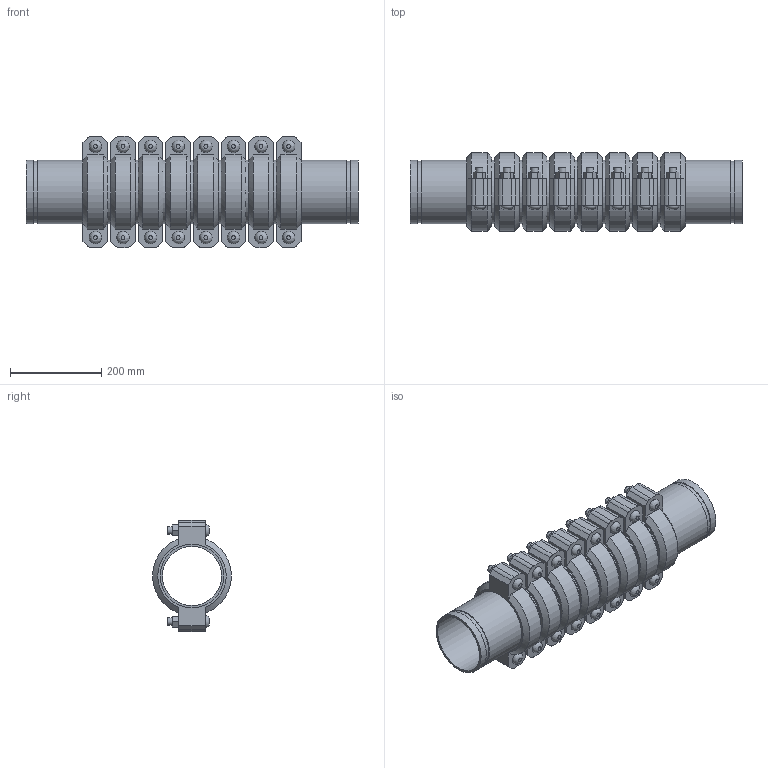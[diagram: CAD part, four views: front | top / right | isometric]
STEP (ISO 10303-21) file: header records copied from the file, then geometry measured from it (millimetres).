
FILE_DESCRIPTION(/* description */ ('VIC EXPANSION JOINT 8 COUPLINGS COMPRESSED STYLE 155 (OGS)','CAx-IF Rec.Pracs.---Representation and Presentation of Product Manufacturing Information (PMI)---4.0---2014-10-13'),/* implementation_level */ '2;1');
FILE_NAME(/* name */ 'C:\Users\kkamble\AppData\Roaming\Autodesk\ApplicationPlugins\Victaulic.Temp\A709\Victaulic_IPS_Expansion Joint_Compressed_8 Couplings_Style 155 (OGS)_05.0 (139.7) (125).stp',/* time_stamp */ '2021-06-27T00:36:24+02:00',/* author */ ('kkamble'),/* organization */ ('Victaulic'),/* preprocessor_version */ 'ST-DEVELOPER v17.2',/* originating_system */ 'Autodesk Inventor 2019',/* authorisation */ '');
FILE_SCHEMA (('AP242_MANAGED_MODEL_BASED_3D_ENGINEERING_MIM_LF { 1 0 10303 442 1 1 4 }'));
Length unit declared in the file: inch
Products named in the file (4): 155-05.0 (139.7); Nipple-05.0 (139.7); Nipple-05.0 (139.7)_1; 075_8_Coup05.0 (139.7)
Assembly tree (17 placements, depth 2):
  155-05.0 (139.7)
    Nipple-05.0 (139.7)  x2
    Nipple-05.0 (139.7)_1  x7
    075_8_Coup05.0 (139.7)  x8
Bounding box: 727.2 x 172.14 x 243.59 mm (x, y, z)
Volume: 6470321 mm3; surface area: 1468501.2 mm2
Topology: 17 solids, 33 shells, 564 faces, 1334 edges, 936 vertices
Faces by surface type: plane 342, cylinder 174, cone 32, bspline 16
Full cylindrical faces by diameter (mm): 15.875 x32, 17.424 x16, 129.388 x9, 133.35 x8, 135.484 x18, 139.7 x43
Entity records: 2858 total; most frequent: CARTESIAN_POINT 501, DIRECTION 477, ORIENTED_EDGE 386, EDGE_CURVE 193, AXIS2_PLACEMENT_3D 192, VERTEX_POINT 138, EDGE_LOOP 107, LINE 93
